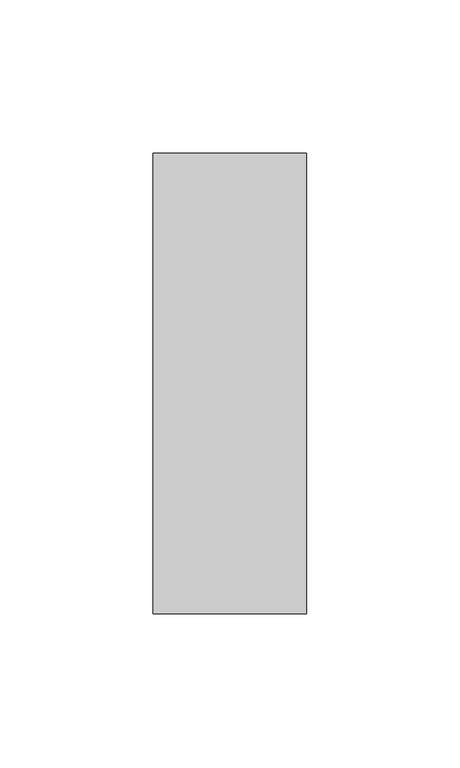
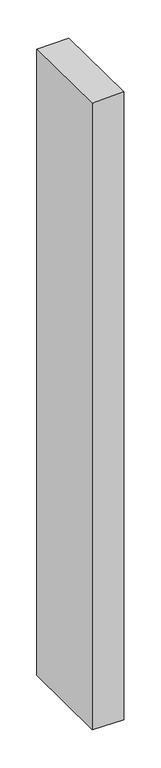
"""IFC4 building model written with IfcOpenShell, lengths in millimetres: member geometry, Прямоугольный импост : 50 x 150 мм."""

import ifcopenshell
import ifcopenshell.guid

model = None  # the IFC model being written
_history = None  # IfcOwnerHistory: only IFC2X3 demands one
_inside = {}  # id of a spatial element -> (the spatial element, [elements in it])
_under = {}  # id of a project, library or spatial element -> (it, [spatial elements below it])
_declared = {}  # id of a project -> (the project, [libraries it declares])
_typed = {}  # id of a type object -> (the type object, [elements of that type])
_made_of = {}  # id of a material, layer set ... -> (it, [elements and type objects made of it])


def new_model(schema):
    """Start an empty IFC model of exactly this schema.

    Asked for "IFC4X3", IfcOpenShell would pick the latest addendum, in which some entities
    have other attributes; the version numbers below select the first issue.
    IFC2X3 requires an IfcOwnerHistory on every rooted entity: one is made here for all.
    """
    global model, _history
    if schema == "IFC4X3":
        model = ifcopenshell.file(schema_version=(4, 3, 0, 0))
    else:
        model = ifcopenshell.file(schema=schema)
    _inside.clear()
    _under.clear()
    _declared.clear()
    _typed.clear()
    _made_of.clear()
    _history = None
    if model.schema == "IFC2X3":
        org = make("IfcOrganization", Name="unknown")
        user = make(
            "IfcPersonAndOrganization",
            ThePerson=make("IfcPerson", FamilyName="unknown"),
            TheOrganization=org,
        )
        app = make(
            "IfcApplication",
            ApplicationDeveloper=org,
            Version="unknown",
            ApplicationFullName="unknown",
            ApplicationIdentifier="unknown",
        )
        _history = make(
            "IfcOwnerHistory",
            OwningUser=user,
            OwningApplication=app,
            ChangeAction="ADDED",
            CreationDate=0,
        )
    return model


def make(cls, **values):
    """One entity of the class cls with the attributes given. An attribute that is None is left unset."""
    return model.create_entity(
        cls, **{name: value for name, value in values.items() if value is not None}
    )


def rooted(cls, **values):
    """An entity with a GlobalId (a new one), such as an element, a storey or a relation."""
    return make(cls, GlobalId=ifcopenshell.guid.new(), OwnerHistory=_history, **values)


def si_unit(unit_type, name, prefix=None):
    """IfcSIUnit, for example si_unit("LENGTHUNIT", "METRE", prefix="MILLI")."""
    return make("IfcSIUnit", UnitType=unit_type, Prefix=prefix, Name=name)


def assignment(units):
    """IfcUnitAssignment: the units of a project."""
    return None if units is None else make("IfcUnitAssignment", Units=units)


def point(xyz):
    """IfcCartesianPoint."""
    return None if xyz is None else make("IfcCartesianPoint", Coordinates=xyz)


def direction(xyz):
    """IfcDirection."""
    return None if xyz is None else make("IfcDirection", DirectionRatios=xyz)


def frame(location, z_axis=None, x_axis=None):
    """IfcAxis2Placement3D, a coordinate frame: its origin and axes. An axis left out is left unset."""
    return make(
        "IfcAxis2Placement3D",
        Location=point(location),
        Axis=direction(z_axis),
        RefDirection=direction(x_axis),
    )


def origin():
    """The frame at (0, 0, 0) with its axes left unset."""
    return frame((0.0, 0.0, 0.0))


def place(relative_to, where):
    """IfcLocalPlacement: puts the frame where relative to a parent placement (None: the world)."""
    return make(
        "IfcLocalPlacement", PlacementRelTo=relative_to, RelativePlacement=where
    )


def context(
    kind, dimensions, precision=None, world=None, true_north=None, identifier=None
):
    """IfcGeometricRepresentationContext, for example the 3D "Model" context."""
    return make(
        "IfcGeometricRepresentationContext",
        ContextIdentifier=identifier,
        ContextType=kind,
        CoordinateSpaceDimension=dimensions,
        Precision=precision,
        WorldCoordinateSystem=world,
        TrueNorth=true_north,
    )


def project(units=None, contexts=None):
    """IfcProject with its units and contexts."""
    return rooted(
        "IfcProject",
        Name="project",
        RepresentationContexts=contexts,
        UnitsInContext=assignment(units),
    )


def spatial(cls, under=None, at=None, **own):
    """A site, building, storey or space (cls), placed at a placement, below another one or the project."""
    s = rooted(cls, ObjectPlacement=at, **own)
    if under is not None:
        _under.setdefault(under.id(), (under, []))[1].append(s)
    return s


def faces_of(points, faces, orient=None, outer=None):
    """IfcFace entities. A face is a list of loops; a loop is a list of indices into points, from 0.

    orient and outer hold one flag for each loop. By default every Orientation is true, the
    first loop of a face is its IfcFaceOuterBound and the others are IfcFaceBound.
    """
    made = []
    for i, loops in enumerate(faces):
        bounds = []
        for j, loop in enumerate(loops):
            is_outer = j == 0 if outer is None else outer[i][j]
            bounds.append(
                make(
                    "IfcFaceOuterBound" if is_outer else "IfcFaceBound",
                    Bound=make("IfcPolyLoop", Polygon=[points[k] for k in loop]),
                    Orientation=True if orient is None else orient[i][j],
                )
            )
        made.append(make("IfcFace", Bounds=bounds))
    return made


def faceted_brep(points, faces, orient=None, outer=None, voids=None):
    """IfcFacetedBrep: a solid bounded by flat faces; with voids (closed shells), ...WithVoids."""
    shared = [point(p) for p in points]
    hull = make("IfcClosedShell", CfsFaces=faces_of(shared, faces, orient, outer))
    if voids is None:
        return make("IfcFacetedBrep", Outer=hull)
    return make(
        "IfcFacetedBrepWithVoids",
        Outer=hull,
        Voids=[
            make(cls, CfsFaces=faces_of(shared, fs, o, b)) for cls, fs, o, b in voids
        ],
    )


def shape(context_of_items, identifier, shape_type, items):
    """IfcShapeRepresentation: the items that make up one representation, for example the "Body"."""
    return make(
        "IfcShapeRepresentation",
        ContextOfItems=context_of_items,
        RepresentationIdentifier=identifier,
        RepresentationType=shape_type,
        Items=items,
    )


def source(mapping_origin, context_of_items, identifier, shape_type, items):
    """IfcRepresentationMap: a shape defined once, which mapped items show again and again."""
    return make(
        "IfcRepresentationMap",
        MappingOrigin=mapping_origin,
        MappedRepresentation=shape(context_of_items, identifier, shape_type, items),
    )


def transform(
    local_origin,
    x_axis=None,
    y_axis=None,
    z_axis=None,
    scale=None,
    scale2=None,
    scale3=None,
    uniform=True,
):
    """IfcCartesianTransformationOperator3D, or its non-uniform kind. x_axis, y_axis, z_axis: its Axis1, 2, 3."""
    if uniform:
        return make(
            "IfcCartesianTransformationOperator3D",
            Axis1=direction(x_axis),
            Axis2=direction(y_axis),
            LocalOrigin=point(local_origin),
            Scale=scale,
            Axis3=direction(z_axis),
        )
    return make(
        "IfcCartesianTransformationOperator3DnonUniform",
        Axis1=direction(x_axis),
        Axis2=direction(y_axis),
        LocalOrigin=point(local_origin),
        Scale=scale,
        Axis3=direction(z_axis),
        Scale2=scale2,
        Scale3=scale3,
    )


def mapped(mapping_source, mapping_target):
    """IfcMappedItem: shows the shape of a source again, moved by a transform."""
    return make(
        "IfcMappedItem", MappingSource=mapping_source, MappingTarget=mapping_target
    )


def made_of(thing, what):
    """Note that an element or type object is made of a material, layer set ...; save() writes the relation."""
    if what is not None:
        _made_of.setdefault(what.id(), (what, []))[1].append(thing)
    return thing


def element(
    cls,
    number,
    at=None,
    inside=None,
    cuts=None,
    type_object=None,
    material=None,
    context=None,
    identifier="Body",
    shape_type=None,
    held_by="IfcProductDefinitionShape",
    body=None,
    shapes=None,
    **own,
):
    """One element of the class cls, such as IfcWall. Its Tag is "e" and its number.

    at: its placement. inside: the storey or other place that contains it. cuts: it is an
    opening in that element (IfcRelVoidsElement). A single representation is given by context,
    identifier, shape_type and body (its items); several are given by shapes. held_by: the class
    of the entity that holds the representations. save() writes the other relations.
    """
    e = rooted(cls, Tag="e%d" % number, ObjectPlacement=at, **own)
    if body is not None:
        shapes = [shape(context, identifier, shape_type, body)]
    if shapes is not None:
        e.Representation = make(held_by, Representations=shapes)
    if inside is not None:
        _inside.setdefault(inside.id(), (inside, []))[1].append(e)
    if cuts is not None:
        rooted(
            "IfcRelVoidsElement", RelatingBuildingElement=cuts, RelatedOpeningElement=e
        )
    if type_object is not None:
        _typed.setdefault(type_object.id(), (type_object, []))[1].append(e)
    return made_of(e, material)


def aggregate(whole, parts):
    """IfcRelAggregates: a whole, such as a stair, and the parts it consists of."""
    return rooted("IfcRelAggregates", RelatingObject=whole, RelatedObjects=parts)


def save(model, path):
    """Write the relations noted so far, then the file.

    IfcRelAggregates (storeys below a building ...), IfcRelContainedInSpatialStructure (elements
    in a storey), IfcRelDefinesByType, IfcRelAssociatesMaterial and IfcRelDeclares: one each for
    every whole, place, type object, material and project.
    """
    for whole, parts in _under.values():
        aggregate(whole, parts)
    for where, things in _inside.values():
        rooted(
            "IfcRelContainedInSpatialStructure",
            RelatedElements=things,
            RelatingStructure=where,
        )
    for kind, things in _typed.values():
        rooted("IfcRelDefinesByType", RelatedObjects=things, RelatingType=kind)
    for what, things in _made_of.values():
        rooted("IfcRelAssociatesMaterial", RelatedObjects=things, RelatingMaterial=what)
    for by, libraries in _declared.values():
        rooted("IfcRelDeclares", RelatingContext=by, RelatedDefinitions=libraries)
    model.write(path)


def member_abd05e89(model_context):
    return source(origin(), model_context, "Body", "Brep", [
        faceted_brep([(-25.0, 75.0, -1.7477239), (25.0, 75.0, -0.3043631), (25.0, 75.0, -1040.7512106), (-25.0, 75.0, -1039.1655012), (-25.0, -75.0, 0.3043631), (-25.0, -75.0, -1038.0051892), (25.0, -75.0, 1.7477239), (25.0, -75.0, -1039.5908986)], [[[0, 1, 2, 3]], [[4, 0, 3, 5]], [[6, 4, 5, 7]], [[1, 6, 7, 2]], [[1, 0, 4, 6]], [[2, 7, 5, 3]]]),
    ])


if __name__ == "__main__":
    model = new_model("IFC4")
    model_context = context("Model", 3, world=origin())
    ifc_project = project(units=[si_unit("LENGTHUNIT", "METRE", prefix="MILLI")], contexts=[model_context])
    site = spatial("IfcSite", under=ifc_project)
    building = spatial("IfcBuilding", under=site)
    placement = place(None, origin())
    member_shape = member_abd05e89(model_context)
    element("IfcMember", 1, ObjectType="Прямоугольный импост : 50 x 150 мм", at=placement, inside=building, context=model_context, shape_type="MappedRepresentation", body=[
        mapped(member_shape, transform((0.0, 0.0, 0.0), x_axis=(1.0, 0.0, 0.0), y_axis=(0.0, 1.0, 0.0), z_axis=(0.0, 0.0, 1.0))),
    ])
    save(model, "model.ifc")
